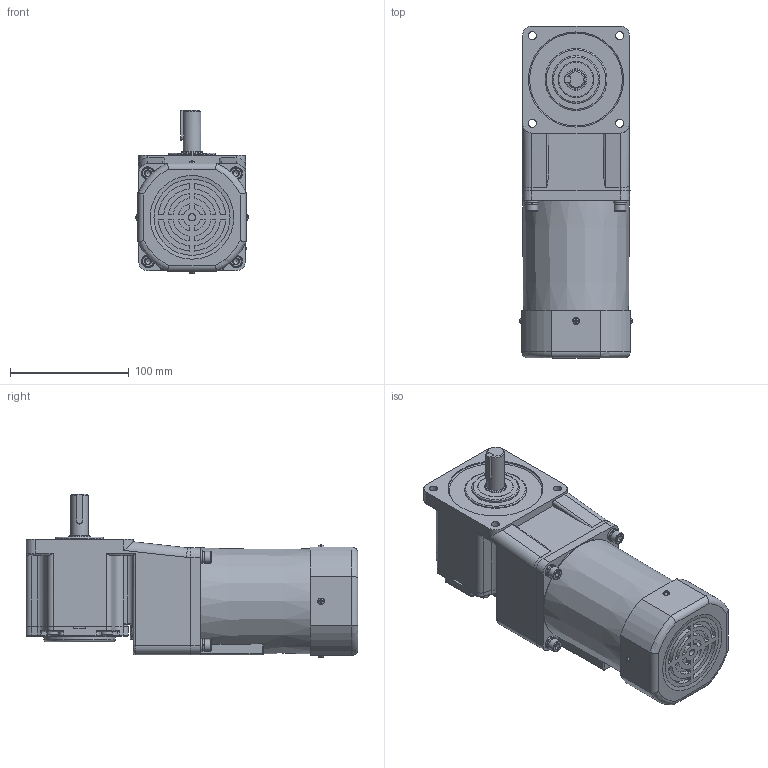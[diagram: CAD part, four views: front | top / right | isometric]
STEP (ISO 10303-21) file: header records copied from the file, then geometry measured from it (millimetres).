
FILE_DESCRIPTION(/* description */ (''),/* implementation_level */ '2;1');
FILE_NAME(/* name */ '90+中实直角-风叶-90W.stp',/* time_stamp */ '2022-11-01T13:41:32+08:00',/* author */ (''),/* organization */ (''),/* preprocessor_version */ 'ST-DEVELOPER v16.7',/* originating_system */ 'SIEMENS PLM Software NX 1899',/* authorisation */ '');
FILE_SCHEMA (('AP203_CONFIGURATION_CONTROLLED_3D_DESIGN_OF_MECHANICAL_PARTS_AND_ASSEMBLIES_MIM_LF { 1 0 10303 403 2 1 2}'));
Length unit declared in the file: millimetre
Products named in the file (1): yf1854BC0762nk56
Bounding box: 94.85 x 279 x 137.42 mm (x, y, z)
Volume: 1921740.9 mm3; surface area: 155109.5 mm2
Topology: 15 solids, 15 shells, 688 faces, 1605 edges, 981 vertices
Faces by surface type: plane 352, cylinder 216, torus 59, cone 45, sphere 8, bspline 8
Full cylindrical faces by diameter (mm): 5 x4, 5.5 x4, 5.795 x4, 6 x1, 6.4 x4, 7 x8, 9.5 x4, 10 x4, 11 x4, 15 x1, 18 x1, 30 x1, 40 x1, 52 x1, 60 x1, 67 x1, 80 x1, 86 x1
Entity records: 21046 total; most frequent: CARTESIAN_POINT 4617, DIRECTION 3196, ORIENTED_EDGE 2944, EDGE_CURVE 1472, AXIS2_PLACEMENT_3D 1225, VERTEX_POINT 949, EDGE_LOOP 839, LINE 746
